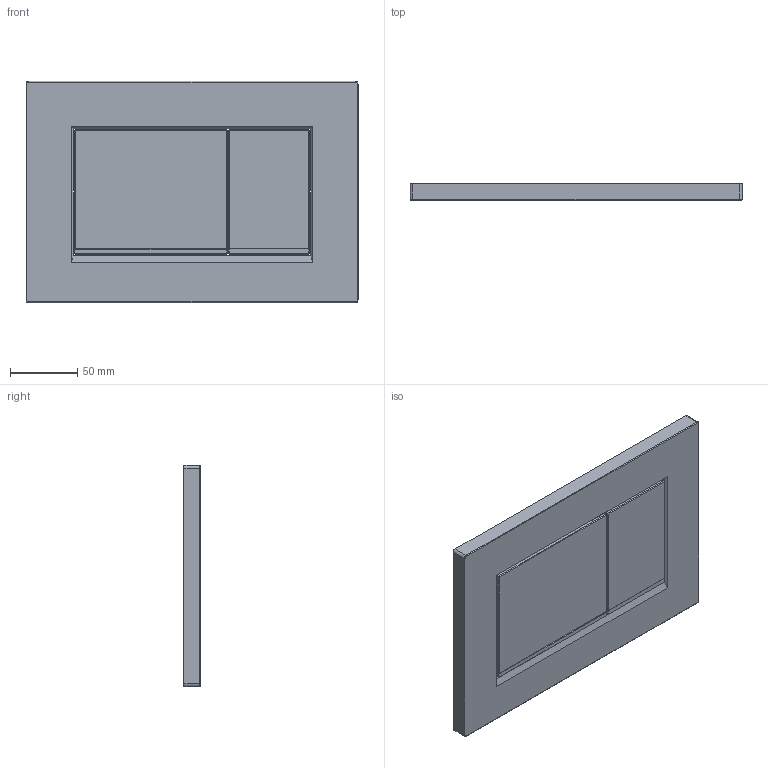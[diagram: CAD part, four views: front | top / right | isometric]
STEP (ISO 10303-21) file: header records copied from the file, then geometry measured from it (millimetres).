
FILE_DESCRIPTION(/* description */ (''),/* implementation_level */ '2;1');
FILE_NAME(/* name */ 'C:\Planerdaten\Export PLA\115.883.01.1\stp\115883.stp',/* time_stamp */ '2021-10-08T09:42:07+02:00',/* author */ ('JANAN'),/* organization */ (''),/* preprocessor_version */ 'ST-DEVELOPER v16.13',/* originating_system */ 'Autodesk Inventor 2018',/* authorisation */ '');
FILE_SCHEMA (('AUTOMOTIVE_DESIGN { 1 0 10303 214 3 1 1 }'));
Length unit declared in the file: millimetre
Products named in the file (1): tmp886A.tmp
Bounding box: 246 x 12 x 164 mm (x, y, z)
Volume: 475076.7 mm3; surface area: 105510.4 mm2
Topology: 5 solids, 5 shells, 87 faces, 196 edges, 119 vertices
Faces by surface type: plane 75, cylinder 8, torus 4
Entity records: 2483 total; most frequent: CARTESIAN_POINT 403, ORIENTED_EDGE 392, DIRECTION 392, EDGE_CURVE 196, LINE 176, VECTOR 176, VERTEX_POINT 119, AXIS2_PLACEMENT_3D 108
